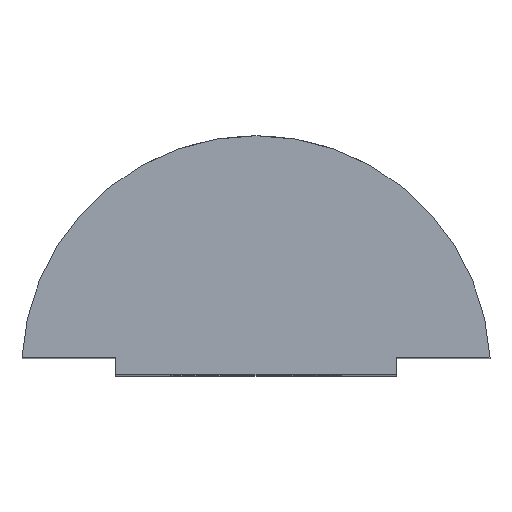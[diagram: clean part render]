
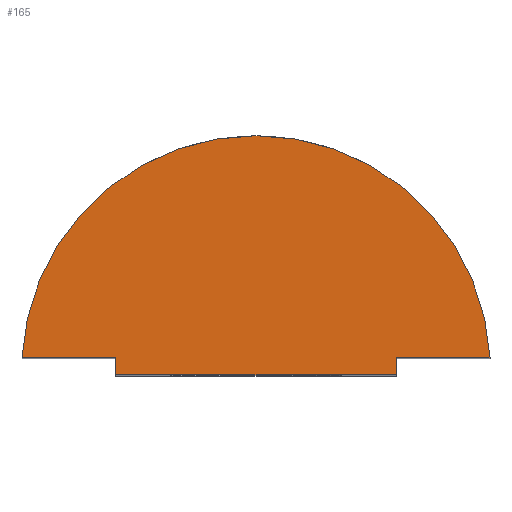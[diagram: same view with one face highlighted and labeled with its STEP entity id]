
A CAD part, top view. The second image highlights one B-rep face of the part: STEP entity #165.
In plain terms, the highlighted planar face has unit normal (0, 0, 1).
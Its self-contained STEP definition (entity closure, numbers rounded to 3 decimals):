
#4 = VERTEX_POINT ( 'NONE', #39 ) ;
#5 = ORIENTED_EDGE ( 'NONE', *, *, #435, .T. ) ;
#6 = CARTESIAN_POINT ( 'NONE',  ( -6.75, 0.5, 11. ) ) ;
#14 = DIRECTION ( 'NONE',  ( 0., 1., 0. ) ) ;
#23 = VECTOR ( 'NONE', #370, 1000. ) ;
#30 = ORIENTED_EDGE ( 'NONE', *, *, #411, .T. ) ;
#32 = CARTESIAN_POINT ( 'NONE',  ( -4.05, 0.5, 11. ) ) ;
#39 = CARTESIAN_POINT ( 'NONE',  ( -4.05, 0.5, 11. ) ) ;
#47 = CARTESIAN_POINT ( 'NONE',  ( -6.75, 0.5, 11. ) ) ;
#50 = EDGE_CURVE ( 'NONE', #63, #363, #274, .T. ) ;
#56 = VECTOR ( 'NONE', #14, 1000. ) ;
#63 = VERTEX_POINT ( 'NONE', #337 ) ;
#67 = DIRECTION ( 'NONE',  ( 1., 0., 0. ) ) ;
#69 = VECTOR ( 'NONE', #67, 1000. ) ;
#71 = VERTEX_POINT ( 'NONE', #144 ) ;
#72 = CIRCLE ( 'NONE', #259, 6.76 ) ;
#76 = LINE ( 'NONE', #281, #23 ) ;
#81 = CARTESIAN_POINT ( 'NONE',  ( 0., 0.14, 11. ) ) ;
#82 = CARTESIAN_POINT ( 'NONE',  ( 4.05, 0., 11. ) ) ;
#88 = VECTOR ( 'NONE', #231, 1000. ) ;
#115 = DIRECTION ( 'NONE',  ( -1., 0., 0. ) ) ;
#121 = ORIENTED_EDGE ( 'NONE', *, *, #314, .T. ) ;
#144 = CARTESIAN_POINT ( 'NONE',  ( -4.05, 0., 11. ) ) ;
#155 = PLANE ( 'NONE',  #271 ) ;
#156 = DIRECTION ( 'NONE',  ( 0., 0., -1. ) ) ;
#165 = ADVANCED_FACE ( 'NONE', ( #216 ), #155, .F. ) ;
#169 = EDGE_LOOP ( 'NONE', ( #297, #30, #121, #5, #344, #270 ) ) ;
#179 = EDGE_CURVE ( 'NONE', #196, #63, #253, .T. ) ;
#185 = VECTOR ( 'NONE', #304, 1000. ) ;
#196 = VERTEX_POINT ( 'NONE', #323 ) ;
#198 = VERTEX_POINT ( 'NONE', #47 ) ;
#216 = FACE_OUTER_BOUND ( 'NONE', #169, .T. ) ;
#227 = LINE ( 'NONE', #32, #88 ) ;
#231 = DIRECTION ( 'NONE',  ( 0., -1., 0. ) ) ;
#253 = LINE ( 'NONE', #82, #56 ) ;
#259 = AXIS2_PLACEMENT_3D ( 'NONE', #415, #437, #408 ) ;
#270 = ORIENTED_EDGE ( 'NONE', *, *, #50, .T. ) ;
#271 = AXIS2_PLACEMENT_3D ( 'NONE', #81, #156, #115 ) ;
#274 = LINE ( 'NONE', #372, #69 ) ;
#281 = CARTESIAN_POINT ( 'NONE',  ( -4.05, 0., 11. ) ) ;
#297 = ORIENTED_EDGE ( 'NONE', *, *, #416, .T. ) ;
#304 = DIRECTION ( 'NONE',  ( 1., 0., 0. ) ) ;
#314 = EDGE_CURVE ( 'NONE', #4, #71, #227, .T. ) ;
#323 = CARTESIAN_POINT ( 'NONE',  ( 4.05, 0., 11. ) ) ;
#327 = CARTESIAN_POINT ( 'NONE',  ( 6.75, 0.5, 11. ) ) ;
#337 = CARTESIAN_POINT ( 'NONE',  ( 4.05, 0.5, 11. ) ) ;
#344 = ORIENTED_EDGE ( 'NONE', *, *, #179, .T. ) ;
#346 = LINE ( 'NONE', #6, #185 ) ;
#363 = VERTEX_POINT ( 'NONE', #327 ) ;
#370 = DIRECTION ( 'NONE',  ( 1., 0., 0. ) ) ;
#372 = CARTESIAN_POINT ( 'NONE',  ( 4.05, 0.5, 11. ) ) ;
#408 = DIRECTION ( 'NONE',  ( -1., 0., 0. ) ) ;
#411 = EDGE_CURVE ( 'NONE', #198, #4, #346, .T. ) ;
#415 = CARTESIAN_POINT ( 'NONE',  ( 0., 0.14, 11. ) ) ;
#416 = EDGE_CURVE ( 'NONE', #363, #198, #72, .T. ) ;
#435 = EDGE_CURVE ( 'NONE', #71, #196, #76, .T. ) ;
#437 = DIRECTION ( 'NONE',  ( 0., 0., 1. ) ) ;
